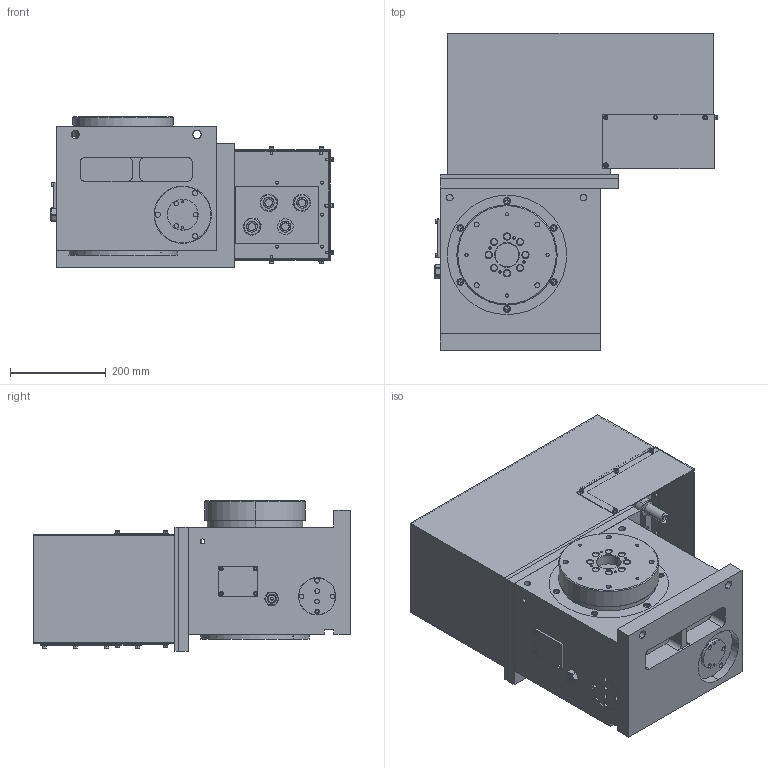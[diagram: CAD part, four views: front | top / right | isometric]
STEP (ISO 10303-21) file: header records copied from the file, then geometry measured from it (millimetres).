
FILE_DESCRIPTION (( 'STEP AP203' ), '1' );
FILE_NAME ('1509860 MDVi216-14.STEP', '2020-12-05T05:29:45', ( '' ), ( '' ), 'SwSTEP 2.0', 'SolidWorks 2019', '' );
FILE_SCHEMA (( 'CONFIG_CONTROL_DESIGN' ));
Length unit declared in the file: millimetre
Products named in the file (1): 1509860 MDVi216-14
Bounding box: 590.9 x 664 x 315 mm (x, y, z)
Surface area: 1938227 mm2 (no closed solid volume)
Topology: 0 solids, 115 shells, 559 faces, 1984 edges, 1506 vertices
Faces by surface type: cylinder 269, plane 204, cone 62, torus 16, bspline 8
Entity records: 23137 total; most frequent: CARTESIAN_POINT 5322, DIRECTION 4050, ORIENTED_EDGE 2876, EDGE_CURVE 1984, AXIS2_PLACEMENT_3D 1562, VERTEX_POINT 1506, CIRCLE 1010, VECTOR 926
